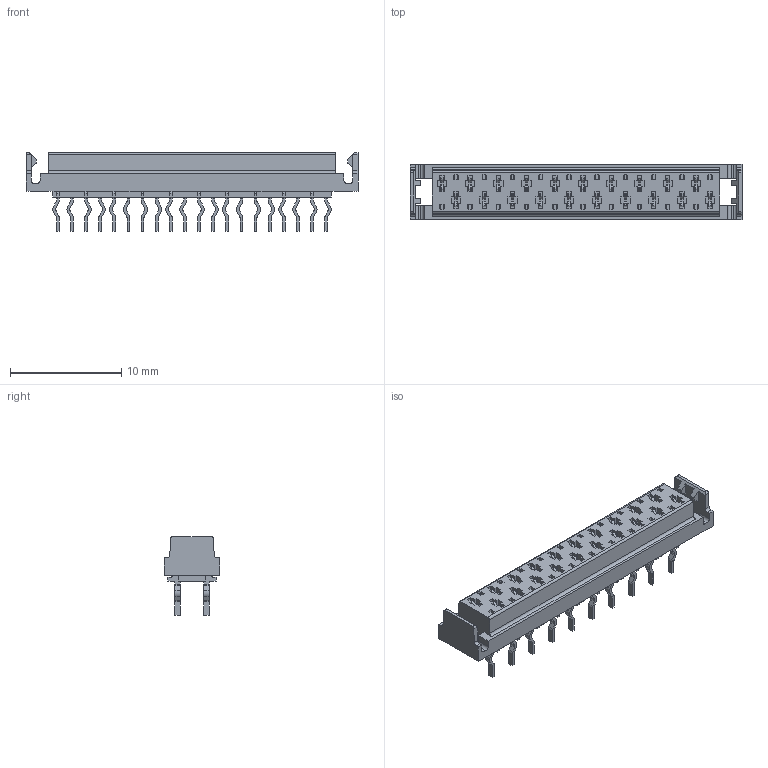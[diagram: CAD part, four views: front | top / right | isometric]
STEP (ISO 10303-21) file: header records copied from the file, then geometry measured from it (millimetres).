
FILE_DESCRIPTION((''),'2;1');
FILE_NAME('C-2-338068-0','2017-03-10T',('workeradm'),('Tyco Electronics Ltd.'),'CREO PARAMETRIC BY PTC INC, 2016050','CREO PARAMETRIC BY PTC INC, 2016050','');
FILE_SCHEMA(('AUTOMOTIVE_DESIGN { 1 0 10303 214 1 1 1 1 }'));
Length unit declared in the file: millimetre
Products named in the file (1): C-2-338068-0
Bounding box: 29.87 x 5 x 7.1 mm (x, y, z)
Volume: 449 mm3; surface area: 873 mm2
Topology: 1 solids, 1 shells, 1483 faces, 4166 edges, 2764 vertices
Faces by surface type: plane 1159, cylinder 324
Entity records: 47571 total; most frequent: CARTESIAN_POINT 8442, ORIENTED_EDGE 8332, DIRECTION 7776, EDGE_CURVE 4166, VECTOR 3514, LINE 3514, VERTEX_POINT 2764, AXIS2_PLACEMENT_3D 2131
